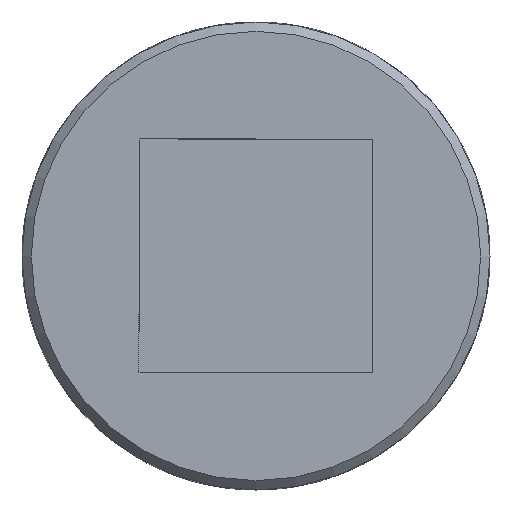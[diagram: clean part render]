
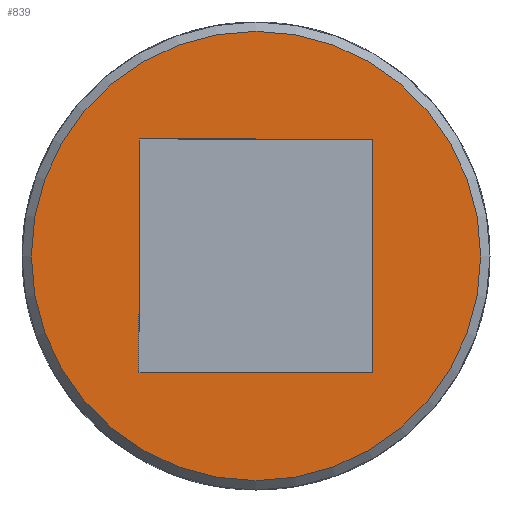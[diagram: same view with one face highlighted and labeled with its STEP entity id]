
A CAD part, front view. The second image highlights one B-rep face of the part: STEP entity #839.
In plain terms, the highlighted planar face has unit normal (0, -1, 0).
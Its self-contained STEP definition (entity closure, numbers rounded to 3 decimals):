
#94=LINE('',#1249,#134);
#98=LINE('',#1272,#138);
#104=LINE('',#1310,#144);
#107=LINE('',#1330,#147);
#134=VECTOR('',#1026,25.);
#138=VECTOR('',#1034,25.);
#144=VECTOR('',#1042,25.);
#147=VECTOR('',#1049,25.);
#174=PLANE('',#913);
#199=FACE_BOUND('',#299,.T.);
#234=FACE_OUTER_BOUND('',#298,.T.);
#298=EDGE_LOOP('',(#679));
#299=EDGE_LOOP('',(#680,#681,#682,#683));
#348=CIRCLE('',#911,24.);
#386=VERTEX_POINT('',#1246);
#387=VERTEX_POINT('',#1248);
#393=VERTEX_POINT('',#1271);
#402=VERTEX_POINT('',#1308);
#409=VERTEX_POINT('',#1377);
#475=EDGE_CURVE('',#387,#386,#94,.T.);
#482=EDGE_CURVE('',#393,#387,#98,.T.);
#492=EDGE_CURVE('',#386,#402,#104,.T.);
#498=EDGE_CURVE('',#402,#393,#107,.T.);
#509=EDGE_CURVE('',#409,#409,#348,.T.);
#679=ORIENTED_EDGE('',*,*,#509,.F.);
#680=ORIENTED_EDGE('',*,*,#475,.T.);
#681=ORIENTED_EDGE('',*,*,#492,.T.);
#682=ORIENTED_EDGE('',*,*,#498,.T.);
#683=ORIENTED_EDGE('',*,*,#482,.T.);
#839=ADVANCED_FACE('',(#234,#199),#174,.F.);
#911=AXIS2_PLACEMENT_3D('',#1378,#1078,#1079);
#913=AXIS2_PLACEMENT_3D('',#1586,#1086,#1087);
#1026=DIRECTION('',(0.,0.,-1.));
#1034=DIRECTION('',(1.,0.,0.));
#1042=DIRECTION('',(-1.,0.,0.));
#1049=DIRECTION('',(0.,0.,1.));
#1078=DIRECTION('center_axis',(0.,1.,0.));
#1079=DIRECTION('ref_axis',(1.,0.,0.));
#1086=DIRECTION('center_axis',(0.,1.,0.));
#1087=DIRECTION('ref_axis',(0.,0.,1.));
#1246=CARTESIAN_POINT('',(12.5,-66.5,-12.5));
#1248=CARTESIAN_POINT('',(12.5,-66.5,12.5));
#1249=CARTESIAN_POINT('',(12.5,-66.5,6.25));
#1271=CARTESIAN_POINT('',(-12.5,-66.5,12.5));
#1272=CARTESIAN_POINT('',(-6.25,-66.5,12.5));
#1308=CARTESIAN_POINT('',(-12.5,-66.5,-12.5));
#1310=CARTESIAN_POINT('',(6.25,-66.5,-12.5));
#1330=CARTESIAN_POINT('',(-12.5,-66.5,-6.25));
#1377=CARTESIAN_POINT('',(-24.,-66.5,0.));
#1378=CARTESIAN_POINT('Origin',(0.,-66.5,0.));
#1586=CARTESIAN_POINT('Origin',(0.,-66.5,0.));
